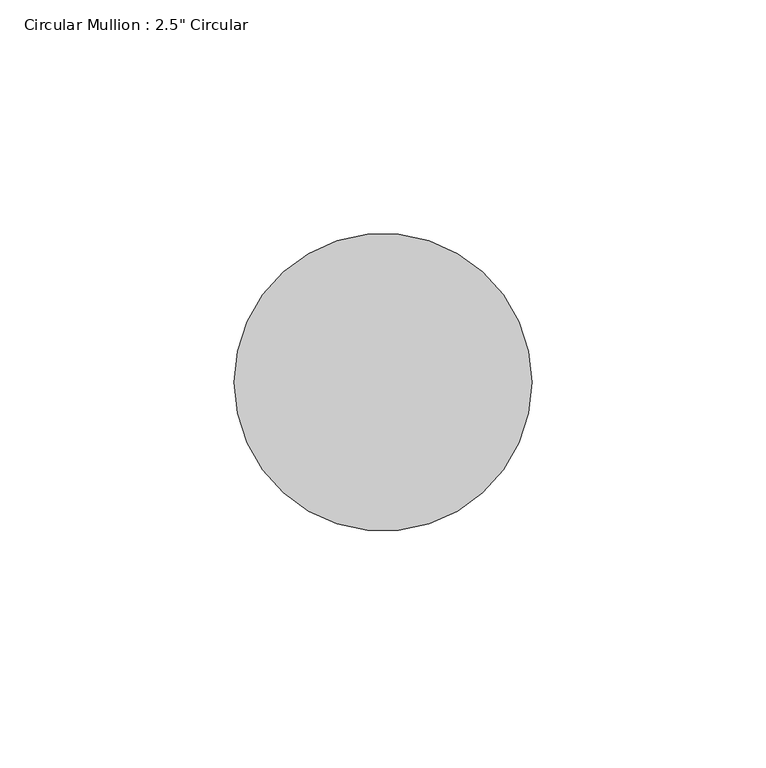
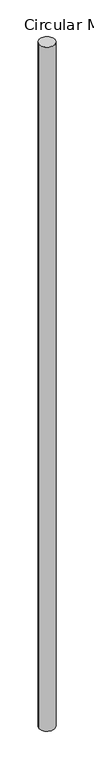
"""IFC4 building model written with IfcOpenShell, lengths in millimetres: member geometry."""

from ifc_helpers import new_model, si_unit, point, frame, origin, origin_2d, place, context, project, spatial, circle_curve, trimmed, segment, composite_curve, outline, extrude, source, transform, mapped, element, save


def member_750c870f(model_context):
    return source(origin(), model_context, "Body", "SweptSolid", [
        extrude(outline(composite_curve([segment(trimmed(circle_curve(origin_2d(), 31.75), [point((31.75, 0.0))], [point((-31.75, 0.0))], False, "CARTESIAN"), True, "CONTINUOUS"), segment(trimmed(circle_curve(origin_2d(), 31.75), [point((-31.75, 0.0))], [point((31.75, 0.0))], False, "CARTESIAN"), True, "CONTINUOUS")], self_intersect=False)), frame((0.0, 0.0, -2939.9827515), z_axis=(0.0, 0.0, 1.0), x_axis=(1.0, 0.0, 0.0)), (0.0, 0.0, 1.0), 2939.9827515),
    ])


if __name__ == "__main__":
    model = new_model("IFC4")
    model_context = context("Model", 3, world=origin())
    ifc_project = project(units=[si_unit("LENGTHUNIT", "METRE", prefix="MILLI")], contexts=[model_context])
    site = spatial("IfcSite", under=ifc_project)
    building = spatial("IfcBuilding", under=site)
    placement = place(None, origin())
    member_shape = member_750c870f(model_context)
    element("IfcMember", 1, ObjectType="Circular Mullion : 2.5\" Circular", at=placement, inside=building, context=model_context, shape_type="MappedRepresentation", body=[
        mapped(member_shape, transform((0.0, 0.0, 0.0), x_axis=(1.0, 0.0, 0.0), y_axis=(0.0, 1.0, 0.0), z_axis=(0.0, 0.0, 1.0))),
    ])
    save(model, "model.ifc")
